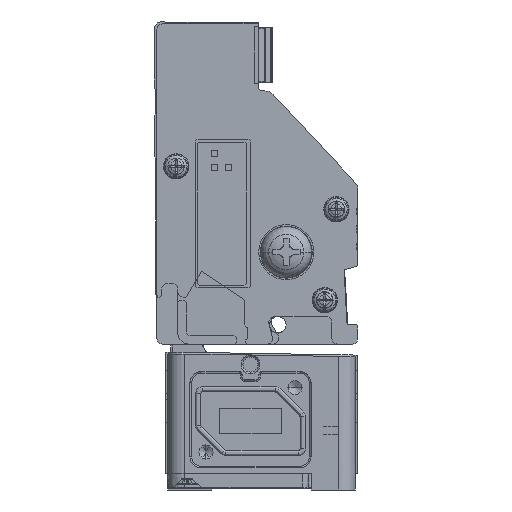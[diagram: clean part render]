
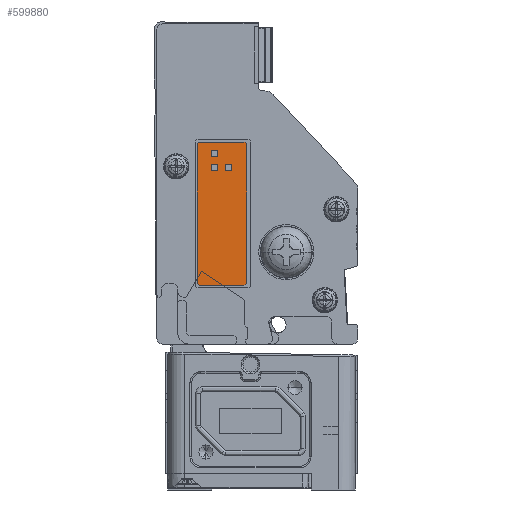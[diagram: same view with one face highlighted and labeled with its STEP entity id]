
A CAD part, front view. The second image highlights one B-rep face of the part: STEP entity #599880.
In plain terms, the highlighted planar face has unit normal (0, -1, 0).
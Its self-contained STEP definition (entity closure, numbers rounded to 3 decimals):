
#598110=CARTESIAN_POINT('',(9.8,-1539.8,
50.2));
#598120=DIRECTION('',(0.,-1.,0.));
#598130=DIRECTION('',(1.,0.,0.));
#598140=AXIS2_PLACEMENT_3D('',#598110,#598120,#598130);
#598150=PLANE('',#598140);
#598160=CARTESIAN_POINT('',(5.8,-1539.8,
62.7));
#598170=DIRECTION('',(0.,-1.,0.));
#598180=DIRECTION('',(0.,0.,1.));
#598190=AXIS2_PLACEMENT_3D('',#598160,#598170,#598180);
#598200=CIRCLE('',#598190,0.5);
#598210=CARTESIAN_POINT('',(5.8,-1539.8,
63.2));
#598220=VERTEX_POINT('',#598210);
#598230=CARTESIAN_POINT('',(5.3,-1539.8,
62.7));
#598240=VERTEX_POINT('',#598230);
#598250=EDGE_CURVE('',#598220,#598240,#598200,.T.);
#598260=ORIENTED_EDGE('',*,*,#598250,.T.);
#598270=CARTESIAN_POINT('',(5.8,-1539.8,
63.2));
#598280=DIRECTION('',(1.,0.,0.));
#598290=VECTOR('',#598280,1.);
#598300=LINE('',#598270,#598290);
#598310=CARTESIAN_POINT('',(13.8,-1539.8,
63.2));
#598320=VERTEX_POINT('',#598310);
#598330=EDGE_CURVE('',#598220,#598320,#598300,.T.);
#598340=ORIENTED_EDGE('',*,*,#598330,.F.);
#598350=CARTESIAN_POINT('',(13.8,-1539.8,
62.7));
#598360=DIRECTION('',(0.,-1.,0.));
#598370=DIRECTION('',(0.,0.,1.));
#598380=AXIS2_PLACEMENT_3D('',#598350,#598360,#598370);
#598390=CIRCLE('',#598380,0.5);
#598400=CARTESIAN_POINT('',(14.3,-1539.8,
62.7));
#598410=VERTEX_POINT('',#598400);
#598420=EDGE_CURVE('',#598410,#598320,#598390,.T.);
#598430=ORIENTED_EDGE('',*,*,#598420,.T.);
#598440=CARTESIAN_POINT('',(14.3,-1539.8,
62.7));
#598450=DIRECTION('',(0.,0.,-1.));
#598460=VECTOR('',#598450,1.);
#598470=LINE('',#598440,#598460);
#598480=CARTESIAN_POINT('',(14.3,-1539.8,
37.7));
#598490=VERTEX_POINT('',#598480);
#598500=EDGE_CURVE('',#598410,#598490,#598470,.T.);
#598510=ORIENTED_EDGE('',*,*,#598500,.F.);
#598520=CARTESIAN_POINT('',(13.8,-1539.8,
37.7));
#598530=DIRECTION('',(0.,-1.,0.));
#598540=DIRECTION('',(0.,0.,1.));
#598550=AXIS2_PLACEMENT_3D('',#598520,#598530,#598540);
#598560=CIRCLE('',#598550,0.5);
#598570=CARTESIAN_POINT('',(13.8,-1539.8,
37.2));
#598580=VERTEX_POINT('',#598570);
#598590=EDGE_CURVE('',#598580,#598490,#598560,.T.);
#598600=ORIENTED_EDGE('',*,*,#598590,.T.);
#598610=CARTESIAN_POINT('',(13.8,-1539.8,
37.2));
#598620=DIRECTION('',(-1.,0.,0.));
#598630=VECTOR('',#598620,1.);
#598640=LINE('',#598610,#598630);
#598650=CARTESIAN_POINT('',(5.8,-1539.8,
37.2));
#598660=VERTEX_POINT('',#598650);
#598670=EDGE_CURVE('',#598580,#598660,#598640,.T.);
#598680=ORIENTED_EDGE('',*,*,#598670,.F.);
#598690=CARTESIAN_POINT('',(5.8,-1539.8,
37.7));
#598700=DIRECTION('',(0.,-1.,0.));
#598710=DIRECTION('',(0.,0.,1.));
#598720=AXIS2_PLACEMENT_3D('',#598690,#598700,#598710);
#598730=CIRCLE('',#598720,0.5);
#598740=CARTESIAN_POINT('',(5.3,-1539.8,
37.7));
#598750=VERTEX_POINT('',#598740);
#598760=EDGE_CURVE('',#598750,#598660,#598730,.T.);
#598770=ORIENTED_EDGE('',*,*,#598760,.T.);
#598780=CARTESIAN_POINT('',(5.3,-1539.8,
37.7));
#598790=DIRECTION('',(0.,0.,1.));
#598800=VECTOR('',#598790,1.);
#598810=LINE('',#598780,#598800);
#598820=EDGE_CURVE('',#598750,#598240,#598810,.T.);
#598830=ORIENTED_EDGE('',*,*,#598820,.F.);
#598840=EDGE_LOOP('',(#598830,#598770,#598680,#598600,#598510,#598430,
#598340,#598260));
#598850=FACE_OUTER_BOUND('',#598840,.T.);
#598860=CARTESIAN_POINT('',(9.8,-1539.8,
58.089));
#598870=DIRECTION('',(-1.,0.,0.));
#598880=VECTOR('',#598870,1.);
#598890=LINE('',#598860,#598880);
#598900=CARTESIAN_POINT('',(11.605,-1539.8,
58.089));
#598910=VERTEX_POINT('',#598900);
#598920=CARTESIAN_POINT('',(10.506,-1539.8,
58.089));
#598930=VERTEX_POINT('',#598920);
#598940=EDGE_CURVE('',#598910,#598930,#598890,.T.);
#598950=ORIENTED_EDGE('',*,*,#598940,.T.);
#598960=CARTESIAN_POINT('',(11.605,-1539.8,
50.2));
#598970=DIRECTION('',(0.,0.,-1.));
#598980=VECTOR('',#598970,1.);
#598990=LINE('',#598960,#598980);
#599000=CARTESIAN_POINT('',(11.605,-1539.8,
59.188));
#599010=VERTEX_POINT('',#599000);
#599020=EDGE_CURVE('',#599010,#598910,#598990,.T.);
#599030=ORIENTED_EDGE('',*,*,#599020,.T.);
#599040=CARTESIAN_POINT('',(9.8,-1539.8,
59.188));
#599050=DIRECTION('',(1.,0.,0.));
#599060=VECTOR('',#599050,1.);
#599070=LINE('',#599040,#599060);
#599080=CARTESIAN_POINT('',(10.506,-1539.8,
59.188));
#599090=VERTEX_POINT('',#599080);
#599100=EDGE_CURVE('',#599090,#599010,#599070,.T.);
#599110=ORIENTED_EDGE('',*,*,#599100,.T.);
#599120=CARTESIAN_POINT('',(10.506,-1539.8,
50.2));
#599130=DIRECTION('',(0.,0.,1.));
#599140=VECTOR('',#599130,1.);
#599150=LINE('',#599120,#599140);
#599160=EDGE_CURVE('',#598930,#599090,#599150,.T.);
#599170=ORIENTED_EDGE('',*,*,#599160,.T.);
#599180=EDGE_LOOP('',(#599170,#599110,#599030,#598950));
#599190=FACE_BOUND('',#599180,.T.);
#599200=CARTESIAN_POINT('',(9.094,-1539.8,
50.2));
#599210=DIRECTION('',(0.,0.,-1.));
#599220=VECTOR('',#599210,1.);
#599230=LINE('',#599200,#599220);
#599240=CARTESIAN_POINT('',(9.094,-1539.8,
59.188));
#599250=VERTEX_POINT('',#599240);
#599260=CARTESIAN_POINT('',(9.094,-1539.8,
58.089));
#599270=VERTEX_POINT('',#599260);
#599280=EDGE_CURVE('',#599250,#599270,#599230,.T.);
#599290=ORIENTED_EDGE('',*,*,#599280,.T.);
#599300=CARTESIAN_POINT('',(9.8,-1539.8,
59.188));
#599310=DIRECTION('',(1.,0.,0.));
#599320=VECTOR('',#599310,1.);
#599330=LINE('',#599300,#599320);
#599340=CARTESIAN_POINT('',(7.995,-1539.8,
59.188));
#599350=VERTEX_POINT('',#599340);
#599360=EDGE_CURVE('',#599350,#599250,#599330,.T.);
#599370=ORIENTED_EDGE('',*,*,#599360,.T.);
#599380=CARTESIAN_POINT('',(7.995,-1539.8,
50.2));
#599390=DIRECTION('',(0.,0.,1.));
#599400=VECTOR('',#599390,1.);
#599410=LINE('',#599380,#599400);
#599420=CARTESIAN_POINT('',(7.995,-1539.8,
58.089));
#599430=VERTEX_POINT('',#599420);
#599440=EDGE_CURVE('',#599430,#599350,#599410,.T.);
#599450=ORIENTED_EDGE('',*,*,#599440,.T.);
#599460=CARTESIAN_POINT('',(9.8,-1539.8,
58.089));
#599470=DIRECTION('',(-1.,0.,0.));
#599480=VECTOR('',#599470,1.);
#599490=LINE('',#599460,#599480);
#599500=EDGE_CURVE('',#599270,#599430,#599490,.T.);
#599510=ORIENTED_EDGE('',*,*,#599500,.T.);
#599520=EDGE_LOOP('',(#599510,#599450,#599370,#599290));
#599530=FACE_BOUND('',#599520,.T.);
#599540=CARTESIAN_POINT('',(9.8,-1539.8,
61.7));
#599550=DIRECTION('',(1.,0.,0.));
#599560=VECTOR('',#599550,1.);
#599570=LINE('',#599540,#599560);
#599580=CARTESIAN_POINT('',(7.995,-1539.8,
61.7));
#599590=VERTEX_POINT('',#599580);
#599600=CARTESIAN_POINT('',(9.094,-1539.8,
61.7));
#599610=VERTEX_POINT('',#599600);
#599620=EDGE_CURVE('',#599590,#599610,#599570,.T.);
#599630=ORIENTED_EDGE('',*,*,#599620,.T.);
#599640=CARTESIAN_POINT('',(7.995,-1539.8,
50.2));
#599650=DIRECTION('',(0.,0.,1.));
#599660=VECTOR('',#599650,1.);
#599670=LINE('',#599640,#599660);
#599680=CARTESIAN_POINT('',(7.995,-1539.8,
60.601));
#599690=VERTEX_POINT('',#599680);
#599700=EDGE_CURVE('',#599690,#599590,#599670,.T.);
#599710=ORIENTED_EDGE('',*,*,#599700,.T.);
#599720=CARTESIAN_POINT('',(9.8,-1539.8,
60.601));
#599730=DIRECTION('',(-1.,0.,0.));
#599740=VECTOR('',#599730,1.);
#599750=LINE('',#599720,#599740);
#599760=CARTESIAN_POINT('',(9.094,-1539.8,
60.601));
#599770=VERTEX_POINT('',#599760);
#599780=EDGE_CURVE('',#599770,#599690,#599750,.T.);
#599790=ORIENTED_EDGE('',*,*,#599780,.T.);
#599800=CARTESIAN_POINT('',(9.094,-1539.8,
50.2));
#599810=DIRECTION('',(0.,0.,-1.));
#599820=VECTOR('',#599810,1.);
#599830=LINE('',#599800,#599820);
#599840=EDGE_CURVE('',#599610,#599770,#599830,.T.);
#599850=ORIENTED_EDGE('',*,*,#599840,.T.);
#599860=EDGE_LOOP('',(#599850,#599790,#599710,#599630));
#599870=FACE_BOUND('',#599860,.T.);
#599880=ADVANCED_FACE('',(#598850,#599190,#599530,#599870),#598150,.T.);
